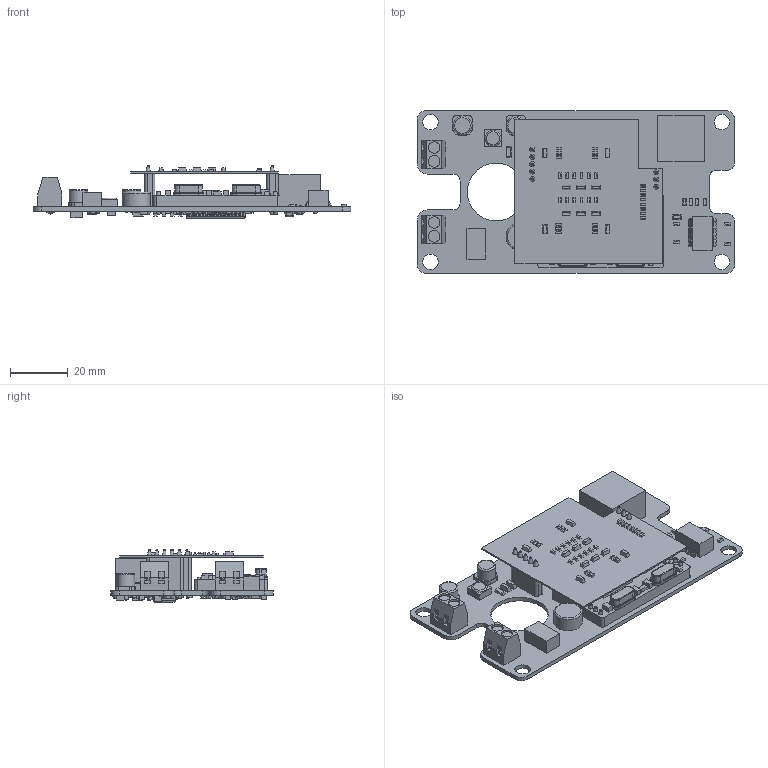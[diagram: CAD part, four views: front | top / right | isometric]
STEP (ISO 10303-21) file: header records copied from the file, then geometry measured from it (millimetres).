
FILE_DESCRIPTION(/* description */ (''),/* implementation_level */ '2;1');
FILE_NAME(/* name */ 'OEM-R840-ETH-ausg.stp',/* time_stamp */ '2020-03-18T15:26:27+01:00',/* author */ (''),/* organization */ (''),/* preprocessor_version */ 'ST-DEVELOPER v16.7',/* originating_system */ 'SIEMENS PLM Software NX 12.0',/* authorisation */ '');
FILE_SCHEMA (('AUTOMOTIVE_DESIGN { 1 0 10303 214 3 1 1 1 }'));
Products named in the file (1): reesD5784D24dtke
Bounding box: 110 x 56.28 x 18.3 mm (x, y, z)
Volume: 22431.2 mm3; surface area: 21883.7 mm2
Topology: 1 solids, 1 shells, 2293 faces, 5747 edges, 3671 vertices
Faces by surface type: plane 1385, cylinder 542, torus 260, cone 76, bspline 22, sphere 8
Full cylindrical faces by diameter (mm): 4 x4, 5.4 x4, 6.4 x2, 9.8 x1, 20 x1
Entity records: 68074 total; most frequent: CARTESIAN_POINT 13100, DIRECTION 11502, ORIENTED_EDGE 11050, EDGE_CURVE 5525, LINE 3980, VECTOR 3980, AXIS2_PLACEMENT_3D 3761, VERTEX_POINT 3623
